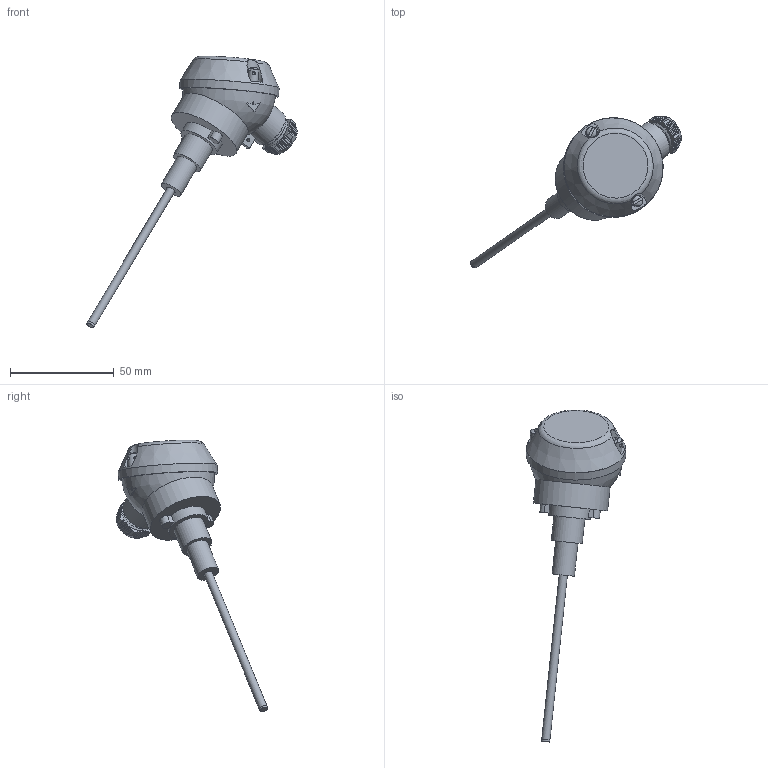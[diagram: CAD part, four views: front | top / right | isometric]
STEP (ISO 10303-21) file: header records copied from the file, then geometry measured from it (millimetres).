
FILE_DESCRIPTION(('STEP AP203'), '1');
FILE_NAME('òñï-í 5.0-60ìì(ñáîðêà)', '', ('UNSPECIFIED'), ('UNSPECIFIED'), 'ASCON STEP Converter 1.6', 'ASCON Math Kernel', '');
FILE_SCHEMA(('CONFIG_CONTROL_DESIGN'));
Length unit declared in the file: millimetre
Products named in the file (17): 栖闉罻; ﾘ琺矜 4; Ãàéêà Ì4; Êë êàëîäêà 731196-002; ﾘ琺矜 758480-006; Êîðïóñ 731196_Ïî óìîë÷àíèþ; Êîëüöî óïëîòíèòåëüíîå 754100-003_Ïî óìîë÷àíèþ; Âèíò Ì3-6; Âèíò 758410-005_Ïî óìîë÷àíèþ; Ïðîêëàäêà 754100_Ïî óìîë÷àíèþ; Êîðïóñ 723110-008-09_Ïî óìîë÷àíèþ; Çàãëóøêà 752513-004-01_Ïî óìîë÷àíèþ; Êðûøêà 753214_Ïî óìîë÷àíèþ; Ïåðåìû÷êà 758480-009; Âòóëêà ðåçüáîâàÿ 715341-002_Ïî óìîë÷àíèþ; Âèíò 715341-003_Ïî óìîë÷àíèþ
Assembly tree (40 placements, depth 3):
  栖闉罻
    ﾘ琺矜 4  x12
    Ãàéêà Ì4  x8
    Êë êàëîäêà 731196-002
    ﾘ琺矜 758480-006  x4
    Êîðïóñ 731196_Ïî óìîë÷àíèþ
    Êîëüöî óïëîòíèòåëüíîå 754100-003_Ïî óìîë÷àíèþ
    Âèíò Ì3-6  x2
    Âèíò 758410-005_Ïî óìîë÷àíèþ  x2
    Ïðîêëàäêà 754100_Ïî óìîë÷àíèþ
    Êîðïóñ 723110-008-09_Ïî óìîë÷àíèþ
      (unnamed)
      Çàãëóøêà 752513-004-01_Ïî óìîë÷àíèþ
    Êðûøêà 753214_Ïî óìîë÷àíèþ
    Ïåðåìû÷êà 758480-009  x2
    Âòóëêà ðåçüáîâàÿ 715341-002_Ïî óìîë÷àíèþ
    Âèíò 715341-003_Ïî óìîë÷àíèþ
Bounding box: 101.61 x 73.11 x 131.06 mm (x, y, z)
Volume: 40995.2 mm3; surface area: 34513.6 mm2
Topology: 39 solids, 39 shells, 821 faces, 2134 edges, 1416 vertices
Faces by surface type: plane 361, cylinder 305, cone 70, bspline 64, torus 19, sphere 2
Full cylindrical faces by diameter (mm): 1.6 x9, 2.46 x2, 2.5 x2, 3 x3, 3.4 x2, 3.5 x1, 4 x14, 4.2 x4, 4.3 x4, 4.5 x1, 5 x2, 5.2 x1, 6 x3, 7 x1, 8 x1, 9 x12, 10 x1, 10.8 x1, 14 x1, 15 x1, 19 x1, 20 x1, 31 x1, 33 x1, 35 x1, 36 x1, 45.5 x1, 46 x1, 48 x1
Entity records: 112943 total; most frequent: CARTESIAN_POINT 95135, ORIENTED_EDGE 2736, DIRECTION 2019, EDGE_CURVE 1368, VERTEX_POINT 950, AXIS2_PLACEMENT_3D 748, EDGE_LOOP 668, B_SPLINE_CURVE_WITH_KNOTS 593
